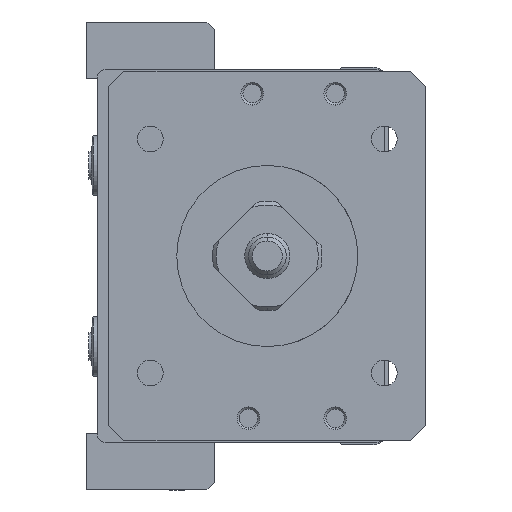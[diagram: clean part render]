
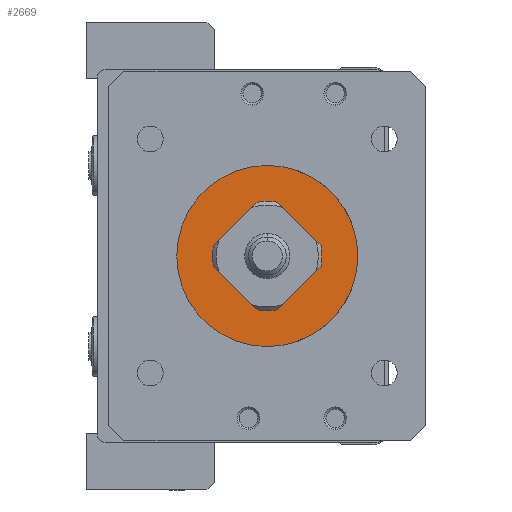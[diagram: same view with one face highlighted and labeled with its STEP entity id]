
A CAD part, left-side view. The second image highlights one B-rep face of the part: STEP entity #2669.
In plain terms, the highlighted planar face has unit normal (-1, 0, 0).
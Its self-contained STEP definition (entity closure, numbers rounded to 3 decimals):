
#223 = CIRCLE ( 'NONE', #9028, 12. ) ;
#227 = CIRCLE ( 'NONE', #9026, 12. ) ;
#272 = VECTOR ( 'NONE', #20823, 1000. ) ;
#294 = LINE ( 'NONE', #20832, #7118 ) ;
#324 = LINE ( 'NONE', #20822, #272 ) ;
#446 = VECTOR ( 'NONE', #20775, 1000. ) ;
#471 = LINE ( 'NONE', #20774, #446 ) ;
#494 = LINE ( 'NONE', #20779, #512 ) ;
#512 = VECTOR ( 'NONE', #20780, 1000. ) ;
#513 = CIRCLE ( 'NONE', #9155, 5.8 ) ;
#580 = LINE ( 'NONE', #20730, #618 ) ;
#593 = CIRCLE ( 'NONE', #9082, 5.8 ) ;
#618 = VECTOR ( 'NONE', #20731, 1000. ) ;
#1578 = ORIENTED_EDGE ( 'NONE', *, *, #14790, .F. ) ;
#1790 = ORIENTED_EDGE ( 'NONE', *, *, #14835, .F. ) ;
#1792 = ORIENTED_EDGE ( 'NONE', *, *, #14837, .T. ) ;
#1794 = ORIENTED_EDGE ( 'NONE', *, *, #14840, .F. ) ;
#1798 = ORIENTED_EDGE ( 'NONE', *, *, #14495, .T. ) ;
#1806 = ORIENTED_EDGE ( 'NONE', *, *, #14830, .F. ) ;
#1809 = ORIENTED_EDGE ( 'NONE', *, *, #14834, .F. ) ;
#1811 = ORIENTED_EDGE ( 'NONE', *, *, #14826, .F. ) ;
#1813 = ORIENTED_EDGE ( 'NONE', *, *, #14806, .F. ) ;
#1814 = ORIENTED_EDGE ( 'NONE', *, *, #14832, .F. ) ;
#1815 = ORIENTED_EDGE ( 'NONE', *, *, #14831, .F. ) ;
#1817 = ORIENTED_EDGE ( 'NONE', *, *, #14487, .T. ) ;
#1818 = ORIENTED_EDGE ( 'NONE', *, *, #14808, .F. ) ;
#1821 = ORIENTED_EDGE ( 'NONE', *, *, #14833, .F. ) ;
#1825 = ORIENTED_EDGE ( 'NONE', *, *, #14783, .F. ) ;
#1838 = ORIENTED_EDGE ( 'NONE', *, *, #14624, .F. ) ;
#2669 = ADVANCED_FACE ( 'NONE', ( #5736, #5738 ), #13638, .F. ) ;
#5736 = FACE_BOUND ( 'NONE', #18082, .T. ) ;
#5738 = FACE_OUTER_BOUND ( 'NONE', #18211, .T. ) ;
#7118 = VECTOR ( 'NONE', #20833, 1000. ) ;
#7119 = LINE ( 'NONE', #20834, #7120 ) ;
#7120 = VECTOR ( 'NONE', #20835, 1000. ) ;
#7121 = LINE ( 'NONE', #20836, #7122 ) ;
#7122 = VECTOR ( 'NONE', #20837, 1000. ) ;
#7123 = LINE ( 'NONE', #20838, #7124 ) ;
#7124 = VECTOR ( 'NONE', #20839, 1000. ) ;
#7125 = LINE ( 'NONE', #20840, #7126 ) ;
#7126 = VECTOR ( 'NONE', #20841, 1000. ) ;
#7127 = LINE ( 'NONE', #20842, #7128 ) ;
#7128 = VECTOR ( 'NONE', #20843, 1000. ) ;
#7129 = LINE ( 'NONE', #20844, #7130 ) ;
#7130 = VECTOR ( 'NONE', #20845, 1000. ) ;
#7131 = LINE ( 'NONE', #20846, #7132 ) ;
#7132 = VECTOR ( 'NONE', #20847, 1000. ) ;
#9026 = AXIS2_PLACEMENT_3D ( 'NONE', #17188, #17189, #17190 ) ;
#9028 = AXIS2_PLACEMENT_3D ( 'NONE', #17262, #17263, #17264 ) ;
#9082 = AXIS2_PLACEMENT_3D ( 'NONE', #17574, #17575, #17576 ) ;
#9155 = AXIS2_PLACEMENT_3D ( 'NONE', #20710, #20711, #20712 ) ;
#11497 = AXIS2_PLACEMENT_3D ( 'NONE', #13640, #13641, #13650 ) ;
#11757 = VERTEX_POINT ( 'NONE', #19366 ) ;
#11762 = VERTEX_POINT ( 'NONE', #19371 ) ;
#11844 = VERTEX_POINT ( 'NONE', #19448 ) ;
#11872 = VERTEX_POINT ( 'NONE', #19476 ) ;
#11997 = VERTEX_POINT ( 'NONE', #19601 ) ;
#11998 = VERTEX_POINT ( 'NONE', #19602 ) ;
#12000 = VERTEX_POINT ( 'NONE', #19604 ) ;
#12003 = VERTEX_POINT ( 'NONE', #19607 ) ;
#12008 = VERTEX_POINT ( 'NONE', #19612 ) ;
#12011 = VERTEX_POINT ( 'NONE', #19615 ) ;
#12018 = VERTEX_POINT ( 'NONE', #19622 ) ;
#12019 = VERTEX_POINT ( 'NONE', #19623 ) ;
#12059 = VERTEX_POINT ( 'NONE', #19663 ) ;
#12060 = VERTEX_POINT ( 'NONE', #19664 ) ;
#12073 = VERTEX_POINT ( 'NONE', #19677 ) ;
#12102 = VERTEX_POINT ( 'NONE', #19706 ) ;
#13638 = PLANE ( 'NONE',  #11497 ) ;
#13640 = CARTESIAN_POINT ( 'NONE',  ( -14., 6., 0. ) ) ;
#13641 = DIRECTION ( 'NONE',  ( 1., 0., 0. ) ) ;
#13650 = DIRECTION ( 'NONE',  ( 0., 0., -1. ) ) ;
#14487 = EDGE_CURVE ( 'NONE', #11872, #11844, #227, .T. ) ;
#14495 = EDGE_CURVE ( 'NONE', #11757, #11762, #223, .T. ) ;
#14624 = EDGE_CURVE ( 'NONE', #12073, #12102, #593, .T. ) ;
#14783 = EDGE_CURVE ( 'NONE', #12102, #12073, #513, .T. ) ;
#14790 = EDGE_CURVE ( 'NONE', #11998, #11997, #580, .T. ) ;
#14806 = EDGE_CURVE ( 'NONE', #11872, #12000, #471, .T. ) ;
#14808 = EDGE_CURVE ( 'NONE', #12003, #11762, #494, .T. ) ;
#14826 = EDGE_CURVE ( 'NONE', #12008, #12011, #324, .T. ) ;
#14830 = EDGE_CURVE ( 'NONE', #12000, #12003, #294, .T. ) ;
#14831 = EDGE_CURVE ( 'NONE', #12060, #11844, #7119, .T. ) ;
#14832 = EDGE_CURVE ( 'NONE', #12019, #12060, #7121, .T. ) ;
#14833 = EDGE_CURVE ( 'NONE', #12011, #12019, #7123, .T. ) ;
#14834 = EDGE_CURVE ( 'NONE', #11997, #12008, #7125, .T. ) ;
#14835 = EDGE_CURVE ( 'NONE', #12018, #11998, #7127, .T. ) ;
#14837 = EDGE_CURVE ( 'NONE', #12018, #12059, #7129, .T. ) ;
#14840 = EDGE_CURVE ( 'NONE', #11757, #12059, #7131, .T. ) ;
#17188 = CARTESIAN_POINT ( 'NONE',  ( -14., 0., 0. ) ) ;
#17189 = DIRECTION ( 'NONE',  ( -1., 0., 0. ) ) ;
#17190 = DIRECTION ( 'NONE',  ( 0., 0., -1. ) ) ;
#17262 = CARTESIAN_POINT ( 'NONE',  ( -14., 0., 0. ) ) ;
#17263 = DIRECTION ( 'NONE',  ( -1., 0., 0. ) ) ;
#17264 = DIRECTION ( 'NONE',  ( 0., 0., -1. ) ) ;
#17574 = CARTESIAN_POINT ( 'NONE',  ( -14., 0., 0. ) ) ;
#17575 = DIRECTION ( 'NONE',  ( -1., 0., 0. ) ) ;
#17576 = DIRECTION ( 'NONE',  ( 0., 0., -1. ) ) ;
#18082 = EDGE_LOOP ( 'NONE', ( #1825, #1838 ) ) ;
#18211 = EDGE_LOOP ( 'NONE', ( #1818, #1806, #1813, #1817, #1815, #1814, #1821, #1811, #1809, #1578, #1790, #1792, #1794, #1798 ) ) ;
#19366 = CARTESIAN_POINT ( 'NONE',  ( -14., 0., -12. ) ) ;
#19371 = CARTESIAN_POINT ( 'NONE',  ( -14., -11.619, -3. ) ) ;
#19448 = CARTESIAN_POINT ( 'NONE',  ( -14., 0., 12. ) ) ;
#19476 = CARTESIAN_POINT ( 'NONE',  ( -14., -11.619, 3. ) ) ;
#19601 = CARTESIAN_POINT ( 'NONE',  ( -14., 22.5, -14. ) ) ;
#19602 = CARTESIAN_POINT ( 'NONE',  ( -14., 12.5, -14. ) ) ;
#19604 = CARTESIAN_POINT ( 'NONE',  ( -14., -15.5, 3. ) ) ;
#19607 = CARTESIAN_POINT ( 'NONE',  ( -14., -15.5, -3. ) ) ;
#19612 = CARTESIAN_POINT ( 'NONE',  ( -14., 22.5, 14. ) ) ;
#19615 = CARTESIAN_POINT ( 'NONE',  ( -14., 12.5, 14. ) ) ;
#19622 = CARTESIAN_POINT ( 'NONE',  ( -14., 12.5, -15. ) ) ;
#19623 = CARTESIAN_POINT ( 'NONE',  ( -14., 12.5, 15. ) ) ;
#19663 = CARTESIAN_POINT ( 'NONE',  ( -14., 0., -15. ) ) ;
#19664 = CARTESIAN_POINT ( 'NONE',  ( -14., 0., 15. ) ) ;
#19677 = CARTESIAN_POINT ( 'NONE',  ( -14., 0., 5.8 ) ) ;
#19706 = CARTESIAN_POINT ( 'NONE',  ( -14., 0., -5.8 ) ) ;
#20710 = CARTESIAN_POINT ( 'NONE',  ( -14., 0., 0. ) ) ;
#20711 = DIRECTION ( 'NONE',  ( -1., 0., 0. ) ) ;
#20712 = DIRECTION ( 'NONE',  ( 0., 0., -1. ) ) ;
#20730 = CARTESIAN_POINT ( 'NONE',  ( -14., 6., -14. ) ) ;
#20731 = DIRECTION ( 'NONE',  ( 0., 1., 0. ) ) ;
#20774 = CARTESIAN_POINT ( 'NONE',  ( -14., 6., 3. ) ) ;
#20775 = DIRECTION ( 'NONE',  ( 0., -1., 0. ) ) ;
#20779 = CARTESIAN_POINT ( 'NONE',  ( -14., 6., -3. ) ) ;
#20780 = DIRECTION ( 'NONE',  ( 0., 1., 0. ) ) ;
#20822 = CARTESIAN_POINT ( 'NONE',  ( -14., 6., 14. ) ) ;
#20823 = DIRECTION ( 'NONE',  ( 0., -1., 0. ) ) ;
#20832 = CARTESIAN_POINT ( 'NONE',  ( -14., -15.5, -5. ) ) ;
#20833 = DIRECTION ( 'NONE',  ( 0., 0., -1. ) ) ;
#20834 = CARTESIAN_POINT ( 'NONE',  ( -14., 0., 0. ) ) ;
#20835 = DIRECTION ( 'NONE',  ( 0., 0., -1. ) ) ;
#20836 = CARTESIAN_POINT ( 'NONE',  ( -14., 0., 15. ) ) ;
#20837 = DIRECTION ( 'NONE',  ( 0., -1., 0. ) ) ;
#20838 = CARTESIAN_POINT ( 'NONE',  ( -14., 12.5, 0. ) ) ;
#20839 = DIRECTION ( 'NONE',  ( 0., 0., 1. ) ) ;
#20840 = CARTESIAN_POINT ( 'NONE',  ( -14., 22.5, -23.7 ) ) ;
#20841 = DIRECTION ( 'NONE',  ( 0., 0., 1. ) ) ;
#20842 = CARTESIAN_POINT ( 'NONE',  ( -14., 12.5, 0. ) ) ;
#20843 = DIRECTION ( 'NONE',  ( 0., 0., 1. ) ) ;
#20844 = CARTESIAN_POINT ( 'NONE',  ( -14., 0., -15. ) ) ;
#20845 = DIRECTION ( 'NONE',  ( 0., -1., 0. ) ) ;
#20846 = CARTESIAN_POINT ( 'NONE',  ( -14., 0., 0. ) ) ;
#20847 = DIRECTION ( 'NONE',  ( 0., 0., -1. ) ) ;
